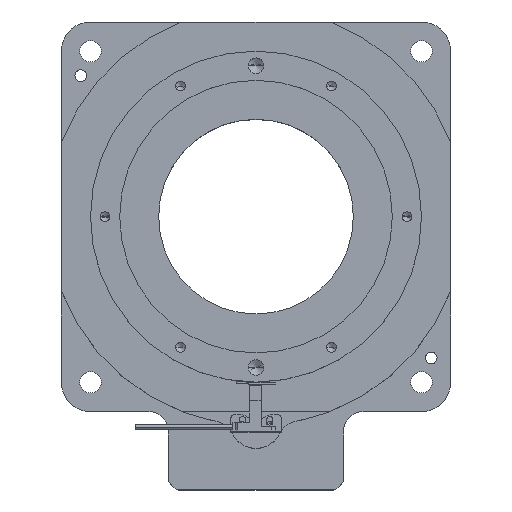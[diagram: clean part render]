
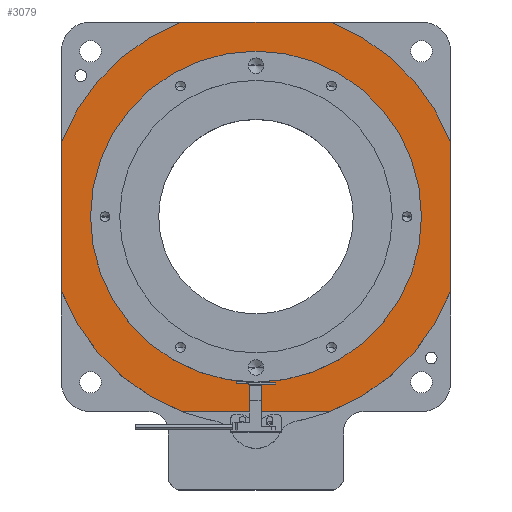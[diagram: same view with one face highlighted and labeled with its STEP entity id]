
A CAD part, top view. The second image highlights one B-rep face of the part: STEP entity #3079.
In plain terms, the highlighted planar face has unit normal (0, 0, 1).
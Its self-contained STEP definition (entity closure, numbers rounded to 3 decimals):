
#105 = EDGE_CURVE ( 'NONE', #5964, #10007, #5553, .T. ) ;
#282 = EDGE_CURVE ( 'NONE', #683, #8328, #6868, .T. ) ;
#313 = LINE ( 'NONE', #10895, #2162 ) ;
#470 = ORIENTED_EDGE ( 'NONE', *, *, #105, .F. ) ;
#516 = CARTESIAN_POINT ( 'NONE',  ( -108.714, 26.147, 43.1 ) ) ;
#644 = DIRECTION ( 'NONE',  ( 1., 0., 0. ) ) ;
#683 = VERTEX_POINT ( 'NONE', #10517 ) ;
#747 = CARTESIAN_POINT ( 'NONE',  ( 76.286, -11.919, 43.1 ) ) ;
#851 = CIRCLE ( 'NONE', #9197, 107. ) ;
#855 = VERTEX_POINT ( 'NONE', #8294 ) ;
#1171 = EDGE_CURVE ( 'NONE', #10957, #6687, #4746, .T. ) ;
#1371 = DIRECTION ( 'NONE',  ( 0., 0., 1. ) ) ;
#1580 = DIRECTION ( 'NONE',  ( 0., 0., 1. ) ) ;
#1617 = DIRECTION ( 'NONE',  ( 0., 0., 1. ) ) ;
#1641 = VERTEX_POINT ( 'NONE', #7306 ) ;
#1675 = CARTESIAN_POINT ( 'NONE',  ( -61.779, 126.147, 43.1 ) ) ;
#2162 = VECTOR ( 'NONE', #3902, 1000. ) ;
#2278 = CARTESIAN_POINT ( 'NONE',  ( -23.714, 26.147, 43.1 ) ) ;
#2448 = DIRECTION ( 'NONE',  ( 1., 0., 0. ) ) ;
#2538 = EDGE_CURVE ( 'NONE', #6687, #7996, #851, .T. ) ;
#2590 = VECTOR ( 'NONE', #3635, 1000. ) ;
#2698 = DIRECTION ( 'NONE',  ( 0., 0., 1. ) ) ;
#2932 = CARTESIAN_POINT ( 'NONE',  ( -123.714, 64.213, 43.1 ) ) ;
#2989 = CIRCLE ( 'NONE', #5364, 107. ) ;
#3079 = ADVANCED_FACE ( 'NONE', ( #5697, #9166 ), #11268, .T. ) ;
#3114 = ORIENTED_EDGE ( 'NONE', *, *, #6853, .F. ) ;
#3203 = CARTESIAN_POINT ( 'NONE',  ( 14.352, -73.853, 43.1 ) ) ;
#3255 = VECTOR ( 'NONE', #10261, 1000. ) ;
#3291 = CARTESIAN_POINT ( 'NONE',  ( -23.714, 26.147, 43.1 ) ) ;
#3627 = ORIENTED_EDGE ( 'NONE', *, *, #9300, .T. ) ;
#3635 = DIRECTION ( 'NONE',  ( -1., 0., 0. ) ) ;
#3697 = ORIENTED_EDGE ( 'NONE', *, *, #8321, .T. ) ;
#3858 = ORIENTED_EDGE ( 'NONE', *, *, #1171, .T. ) ;
#3902 = DIRECTION ( 'NONE',  ( 0., 1., 0. ) ) ;
#3997 = CARTESIAN_POINT ( 'NONE',  ( -23.714, 26.147, 43.1 ) ) ;
#4746 = LINE ( 'NONE', #10662, #8758 ) ;
#5009 = DIRECTION ( 'NONE',  ( 0., 0., 1. ) ) ;
#5364 = AXIS2_PLACEMENT_3D ( 'NONE', #2278, #1371, #8313 ) ;
#5425 = AXIS2_PLACEMENT_3D ( 'NONE', #3291, #1580, #10222 ) ;
#5495 = ORIENTED_EDGE ( 'NONE', *, *, #2538, .T. ) ;
#5553 = LINE ( 'NONE', #8908, #2590 ) ;
#5697 = FACE_BOUND ( 'NONE', #8190, .T. ) ;
#5874 = AXIS2_PLACEMENT_3D ( 'NONE', #3997, #8152, #10932 ) ;
#5914 = VERTEX_POINT ( 'NONE', #747 ) ;
#5964 = VERTEX_POINT ( 'NONE', #3203 ) ;
#6202 = AXIS2_PLACEMENT_3D ( 'NONE', #7865, #5009, #2448 ) ;
#6520 = CARTESIAN_POINT ( 'NONE',  ( 14.352, 126.147, 43.1 ) ) ;
#6676 = DIRECTION ( 'NONE',  ( 1., 0., 0. ) ) ;
#6687 = VERTEX_POINT ( 'NONE', #1675 ) ;
#6853 = EDGE_CURVE ( 'NONE', #8328, #683, #8787, .T. ) ;
#6868 = CIRCLE ( 'NONE', #10127, 85. ) ;
#7029 = CARTESIAN_POINT ( 'NONE',  ( -61.779, -73.853, 43.1 ) ) ;
#7034 = CARTESIAN_POINT ( 'NONE',  ( -23.714, 26.147, 43.1 ) ) ;
#7306 = CARTESIAN_POINT ( 'NONE',  ( -123.714, -11.919, 43.1 ) ) ;
#7483 = DIRECTION ( 'NONE',  ( 0., 0., 1. ) ) ;
#7865 = CARTESIAN_POINT ( 'NONE',  ( -23.714, 6.147, 43.1 ) ) ;
#7945 = ORIENTED_EDGE ( 'NONE', *, *, #8810, .T. ) ;
#7996 = VERTEX_POINT ( 'NONE', #2932 ) ;
#8152 = DIRECTION ( 'NONE',  ( 0., 0., 1. ) ) ;
#8190 = EDGE_LOOP ( 'NONE', ( #9063, #3114 ) ) ;
#8294 = CARTESIAN_POINT ( 'NONE',  ( 76.286, 64.213, 43.1 ) ) ;
#8313 = DIRECTION ( 'NONE',  ( 1., 0., 0. ) ) ;
#8321 = EDGE_CURVE ( 'NONE', #855, #10957, #2989, .T. ) ;
#8328 = VERTEX_POINT ( 'NONE', #516 ) ;
#8508 = LINE ( 'NONE', #10208, #3255 ) ;
#8676 = DIRECTION ( 'NONE',  ( 1., 0., 0. ) ) ;
#8745 = AXIS2_PLACEMENT_3D ( 'NONE', #10697, #2698, #6676 ) ;
#8758 = VECTOR ( 'NONE', #9021, 1000. ) ;
#8787 = CIRCLE ( 'NONE', #5874, 85. ) ;
#8810 = EDGE_CURVE ( 'NONE', #5964, #5914, #9233, .T. ) ;
#8908 = CARTESIAN_POINT ( 'NONE',  ( -87.565, -73.853, 43.1 ) ) ;
#9021 = DIRECTION ( 'NONE',  ( -1., 0., 0. ) ) ;
#9063 = ORIENTED_EDGE ( 'NONE', *, *, #282, .F. ) ;
#9166 = FACE_OUTER_BOUND ( 'NONE', #9653, .T. ) ;
#9170 = EDGE_CURVE ( 'NONE', #5914, #855, #313, .T. ) ;
#9197 = AXIS2_PLACEMENT_3D ( 'NONE', #9342, #7483, #644 ) ;
#9233 = CIRCLE ( 'NONE', #5425, 107. ) ;
#9300 = EDGE_CURVE ( 'NONE', #7996, #1641, #8508, .T. ) ;
#9342 = CARTESIAN_POINT ( 'NONE',  ( -23.714, 26.147, 43.1 ) ) ;
#9653 = EDGE_LOOP ( 'NONE', ( #470, #7945, #10633, #3697, #3858, #5495, #3627, #10324 ) ) ;
#10007 = VERTEX_POINT ( 'NONE', #7029 ) ;
#10040 = EDGE_CURVE ( 'NONE', #1641, #10007, #10191, .T. ) ;
#10127 = AXIS2_PLACEMENT_3D ( 'NONE', #7034, #1617, #8676 ) ;
#10191 = CIRCLE ( 'NONE', #8745, 107. ) ;
#10208 = CARTESIAN_POINT ( 'NONE',  ( -123.714, 111.147, 43.1 ) ) ;
#10222 = DIRECTION ( 'NONE',  ( 1., 0., 0. ) ) ;
#10261 = DIRECTION ( 'NONE',  ( 0., -1., 0. ) ) ;
#10324 = ORIENTED_EDGE ( 'NONE', *, *, #10040, .T. ) ;
#10517 = CARTESIAN_POINT ( 'NONE',  ( 61.286, 26.147, 43.1 ) ) ;
#10633 = ORIENTED_EDGE ( 'NONE', *, *, #9170, .T. ) ;
#10662 = CARTESIAN_POINT ( 'NONE',  ( -108.714, 126.147, 43.1 ) ) ;
#10697 = CARTESIAN_POINT ( 'NONE',  ( -23.714, 26.147, 43.1 ) ) ;
#10895 = CARTESIAN_POINT ( 'NONE',  ( 76.286, 111.147, 43.1 ) ) ;
#10932 = DIRECTION ( 'NONE',  ( 1., 0., 0. ) ) ;
#10957 = VERTEX_POINT ( 'NONE', #6520 ) ;
#11268 = PLANE ( 'NONE',  #6202 ) ;
